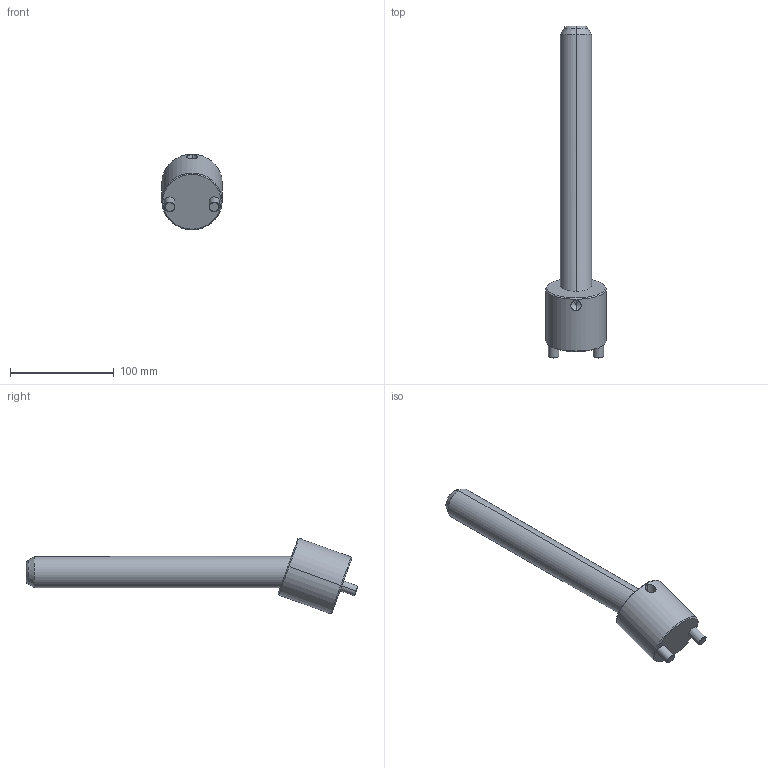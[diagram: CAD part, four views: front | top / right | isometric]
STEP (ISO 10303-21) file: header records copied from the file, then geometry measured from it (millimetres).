
FILE_DESCRIPTION(('CATIA V5 STEP Exchange'),'2;1');
FILE_NAME('C:\Users\Raffaele\Desktop\3D BOLEX\3D FILES CF BOLEX\19-INCLINED ASSEMBLY REF_CI\CI2030250.stp','2019-06-24T06:46:52+00:00',('none'),('none'),'CATIA Version 5 Release 20 GA (IN-10)','CATIA V5 STEP AP203','none');
FILE_SCHEMA(('CONFIG_CONTROL_DESIGN'));
Length unit declared in the file: millimetre
Products named in the file (1): CI2030250
Assembly tree (2 placements, depth 2):
  CI2030250
    #58
    #593
Bounding box: 58 x 319.37 x 72.63 mm (x, y, z)
Volume: 320469.3 mm3; surface area: 49593 mm2
Topology: 2 solids, 2 shells, 39 faces, 82 edges, 47 vertices
Faces by surface type: cone 14, cylinder 14, plane 7, torus 4
Entity records: 1563 total; most frequent: CARTESIAN_POINT 700, ORIENTED_EDGE 160, DIRECTION 147, EDGE_CURVE 80, AXIS2_PLACEMENT_3D 74, VERTEX_POINT 47, EDGE_LOOP 43, ADVANCED_FACE 39
